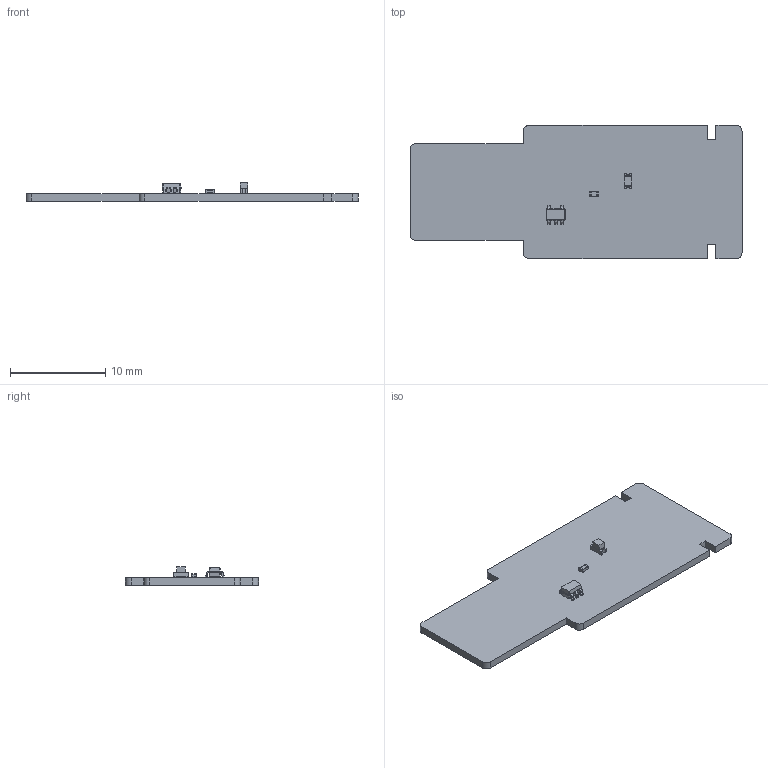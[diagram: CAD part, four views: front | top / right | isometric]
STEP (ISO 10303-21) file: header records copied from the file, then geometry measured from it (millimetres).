
FILE_DESCRIPTION(('KiCad electronic assembly'),'2;1');
FILE_NAME('FMA100.step','2021-10-27T21:16:13',('An Author'),('A Company' ),'Open CASCADE STEP processor 7.5','KiCad to STEP converter', 'Unknown');
FILE_SCHEMA(('AUTOMOTIVE_DESIGN { 1 0 10303 214 1 1 1 1 }'));
Length unit declared in the file: millimetre
Products named in the file (8): Open CASCADE STEP translator 7.5 1; SOT-353_SC-70-5; SOLID; R_0402_1005Metric; LED_0603_1608Metric_Castellated
Assembly tree (7 placements, depth 3):
  Open CASCADE STEP translator 7.5 1
    SOT-353_SC-70-5
      SOLID
    R_0402_1005Metric
      SOLID
    LED_0603_1608Metric_Castellated
      SOLID
    SOLID
Bounding box: 34.92 x 14 x 1.95 mm (x, y, z)
Volume: 355.3 mm3; surface area: 983.6 mm2
Topology: 4 solids, 4 shells, 192 faces, 487 edges, 304 vertices
Faces by surface type: plane 115, cylinder 48, bspline 29
Entity records: 13790 total; most frequent: CARTESIAN_POINT 2843, DIRECTION 1744, LINE 1174, VECTOR 1174, ORIENTED_EDGE 974, PCURVE 974, DEFINITIONAL_REPRESENTATION 974, EDGE_CURVE 487
